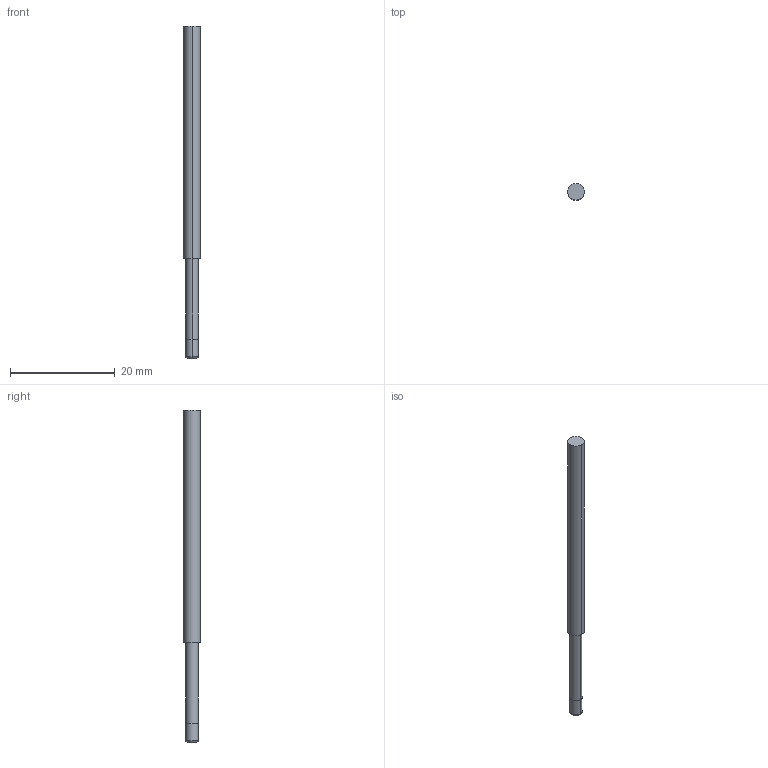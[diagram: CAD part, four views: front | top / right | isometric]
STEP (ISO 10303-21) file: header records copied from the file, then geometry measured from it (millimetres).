
FILE_DESCRIPTION((' '),'2;1');
FILE_NAME( '3MVS0938R.010N8AH.stp', '2026-01-21T19:26:01', (' '), ('--- Datakit www.datakit.com---'), ' Datakit CrossCadWare V2025.4 Sep 19 2025', 'Mastercam 2027', ' ');
FILE_SCHEMA(('AUTOMOTIVE_DESIGN { 1 0 10303 214 1 1 1 1 }'));
Length unit declared in the file: inch
Products named in the file (1): 3MVS0938R
Bounding box: 3.17 x 3.17 x 63.5 mm (x, y, z)
Volume: 436.8 mm3; surface area: 600.9 mm2
Topology: 1 solids, 1 shells, 11 faces, 20 edges, 12 vertices
Faces by surface type: cylinder 6, plane 3, torus 2
Entity records: 356 total; most frequent: DIRECTION 66, CARTESIAN_POINT 48, ORIENTED_EDGE 40, AXIS2_PLACEMENT_3D 30, EDGE_CURVE 20, CIRCLE 14, VERTEX_POINT 12, EDGE_LOOP 12
